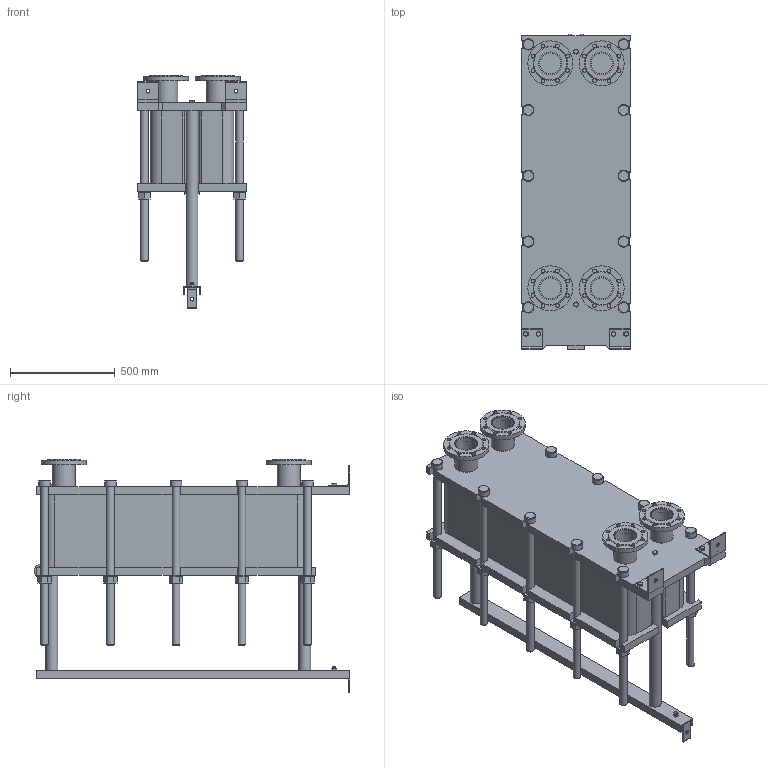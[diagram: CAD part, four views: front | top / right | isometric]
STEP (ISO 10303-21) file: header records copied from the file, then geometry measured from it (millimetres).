
FILE_DESCRIPTION(/* description */ (''),/* implementation_level */ '2;1');
FILE_NAME(/* name */ 'C:\Users\zhuro\Desktop\ENCO\TO\ЭН-04\ЭН-0,5-04-100-1.stp',/* time_stamp */ '2022-06-06T10:53:58+03:00',/* author */ ('zhuro'),/* organization */ (''),/* preprocessor_version */ 'ST-DEVELOPER v18.1',/* originating_system */ 'Autodesk Inventor 2022',/* authorisation */ '');
FILE_SCHEMA (('AUTOMOTIVE_DESIGN { 1 0 10303 214 3 1 1 }'));
Length unit declared in the file: millimetre
Products named in the file (1): ЭН-0,5-04-100-1
Bounding box: 520 x 1510 x 1115 mm (x, y, z)
Volume: 243621692.3 mm3; surface area: 8355261.9 mm2
Topology: 45 solids, 45 shells, 668 faces, 1611 edges, 1048 vertices
Faces by surface type: plane 457, cylinder 166, cone 39, torus 6
Full cylindrical faces by diameter (mm): 8 x4, 10 x2, 16 x8, 18 x35, 36 x25, 40 x2, 42 x1, 45 x4, 54 x10, 57 x2, 60 x10, 68 x2, 100 x4, 110 x8, 215 x4
Entity records: 23607 total; most frequent: CARTESIAN_POINT 7348, DIRECTION 3371, ORIENTED_EDGE 3142, EDGE_CURVE 1571, AXIS2_PLACEMENT_3D 1199, VERTEX_POINT 1044, LINE 973, VECTOR 973
